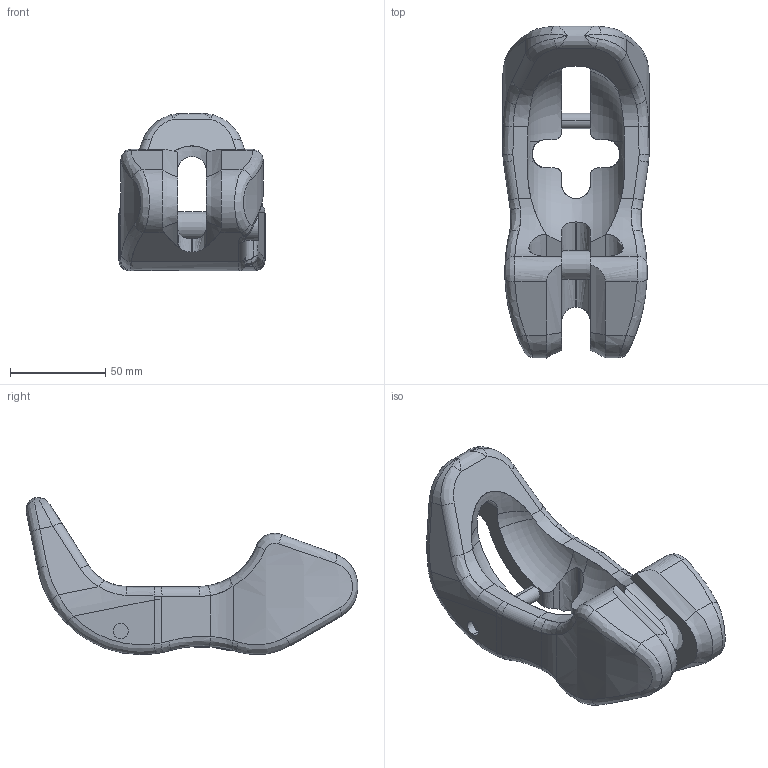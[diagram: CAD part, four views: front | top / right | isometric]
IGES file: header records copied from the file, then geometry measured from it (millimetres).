
Start section:  PTC IGES file: C:\Aktuell-Internet\CAD-Daten\3vmvk13.igs
Global section: file name: C:\Aktuell-Internet\CAD-Daten\3vmvk13.igs; native system: Pro/ENGINEER by Parametric Technology Corporation; preprocessor: 2001400; author: jakubetz; organization: Unknown; date: 030821.111752; units: millimetre
Bounding box: 76.7 x 174.19 x 82.55 mm (x, y, z)
Surface area: 50961 mm2 (no closed solid volume)
Topology: 0 solids, 0 shells, 369 faces, 2008 edges, 2008 vertices
Faces by surface type: bspline 271, revolution 98
